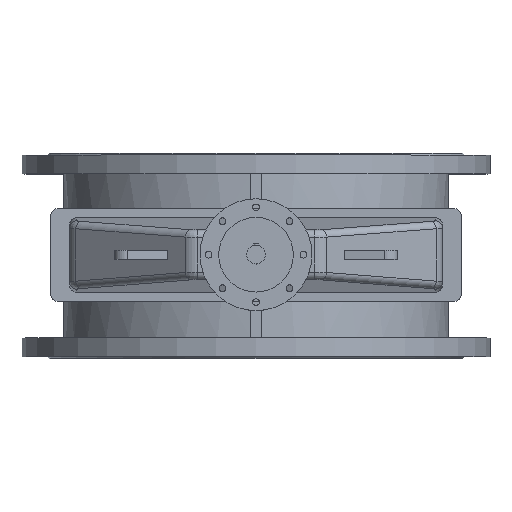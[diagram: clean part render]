
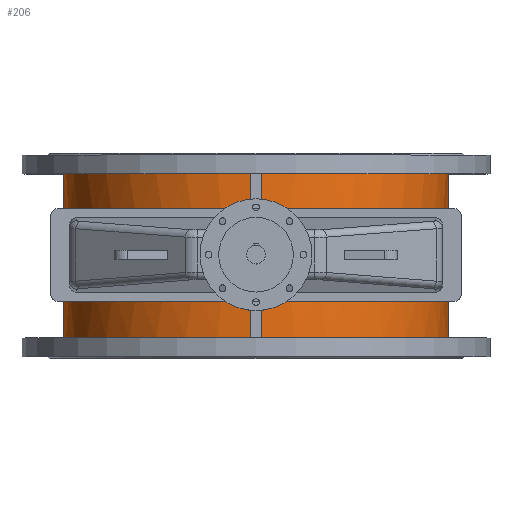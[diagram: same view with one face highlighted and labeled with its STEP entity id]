
A CAD part, top view. The second image highlights one B-rep face of the part: STEP entity #206.
In plain terms, the highlighted cylindrical face has radius 516 mm (diameter 1032 mm), a partial arc.
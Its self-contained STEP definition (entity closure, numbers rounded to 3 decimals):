
#206=ADVANCED_FACE('',(#2637,#2639),#2641,.T.);
#2637=FACE_BOUND('',#2638,.T.);
#2638=EDGE_LOOP('',(#7153,#7154,#7155,#7156,#7157,#7158,#7159,#7160,#7161,#7162,
#7163,#7164));
#2639=FACE_BOUND('',#2640,.T.);
#2640=EDGE_LOOP('',(#7165,#7166,#7167,#7168,#7169,#7170));
#2641=CYLINDRICAL_SURFACE('',#2642,516.);
#2642=AXIS2_PLACEMENT_3D('',#2643,#2644,#2645);
#2643=CARTESIAN_POINT('',(0.,-220.,0.));
#2644=DIRECTION('',(0.,1.,0.));
#2645=DIRECTION('',(0.,0.,1.));
#7153=ORIENTED_EDGE('',*,*,#8330,.F.);
#7154=ORIENTED_EDGE('',*,*,#8325,.F.);
#7155=ORIENTED_EDGE('',*,*,#8331,.F.);
#7156=ORIENTED_EDGE('',*,*,#8332,.F.);
#7157=ORIENTED_EDGE('',*,*,#8333,.F.);
#7158=ORIENTED_EDGE('',*,*,#8334,.F.);
#7159=ORIENTED_EDGE('',*,*,#8335,.F.);
#7160=ORIENTED_EDGE('',*,*,#8336,.F.);
#7161=ORIENTED_EDGE('',*,*,#8269,.F.);
#7162=ORIENTED_EDGE('',*,*,#8329,.F.);
#7163=ORIENTED_EDGE('',*,*,#8337,.F.);
#7164=ORIENTED_EDGE('',*,*,#8338,.T.);
#7165=ORIENTED_EDGE('',*,*,#8339,.T.);
#7166=ORIENTED_EDGE('',*,*,#8340,.F.);
#7167=ORIENTED_EDGE('',*,*,#8341,.F.);
#7168=ORIENTED_EDGE('',*,*,#8342,.F.);
#7169=ORIENTED_EDGE('',*,*,#8343,.F.);
#7170=ORIENTED_EDGE('',*,*,#8344,.F.);
#8269=EDGE_CURVE('',#8874,#8876,#8877,.T.);
#8325=EDGE_CURVE('',#8970,#8972,#8973,.T.);
#8329=EDGE_CURVE('',#8978,#8874,#8980,.T.);
#8330=EDGE_CURVE('',#8972,#8981,#8982,.F.);
#8331=EDGE_CURVE('',#8983,#8970,#8984,.F.);
#8332=EDGE_CURVE('',#8985,#8983,#8986,.F.);
#8333=EDGE_CURVE('',#8987,#8985,#8988,.F.);
#8334=EDGE_CURVE('',#8989,#8987,#8990,.T.);
#8335=EDGE_CURVE('',#8991,#8989,#8992,.T.);
#8336=EDGE_CURVE('',#8876,#8991,#8993,.F.);
#8337=EDGE_CURVE('',#8994,#8978,#8995,.T.);
#8338=EDGE_CURVE('',#8994,#8981,#8996,.T.);
#8339=EDGE_CURVE('',#8997,#8998,#8999,.T.);
#8340=EDGE_CURVE('',#9000,#8998,#9001,.F.);
#8341=EDGE_CURVE('',#9002,#9000,#9003,.F.);
#8342=EDGE_CURVE('',#9004,#9002,#9005,.T.);
#8343=EDGE_CURVE('',#9006,#9004,#9007,.T.);
#8344=EDGE_CURVE('',#8997,#9006,#9008,.T.);
#8874=VERTEX_POINT('',#9910);
#8876=VERTEX_POINT('',#9914);
#8877=LINE('',#9915,#9916);
#8970=VERTEX_POINT('',#10136);
#8972=VERTEX_POINT('',#10140);
#8973=(BOUNDED_CURVE()B_SPLINE_CURVE(3,
(#10141,#10142,#10143,#10144),
.UNSPECIFIED.,.F.,.F.)B_SPLINE_CURVE_WITH_KNOTS((4,4),
(0.,1.),
.UNSPECIFIED.)CURVE()GEOMETRIC_REPRESENTATION_ITEM()RATIONAL_B_SPLINE_CURVE((1.,
0.865,0.865,1.))REPRESENTATION_ITEM(''));
#8978=VERTEX_POINT('',#10153);
#8980=(BOUNDED_CURVE()B_SPLINE_CURVE(3,
(#10157,#10158,#10159,#10160),
.UNSPECIFIED.,.F.,.F.)B_SPLINE_CURVE_WITH_KNOTS((4,4),
(0.,1.),
.UNSPECIFIED.)CURVE()GEOMETRIC_REPRESENTATION_ITEM()RATIONAL_B_SPLINE_CURVE((1.,
0.865,0.865,1.))REPRESENTATION_ITEM(''));
#8981=VERTEX_POINT('',#10161);
#8982=LINE('',#10162,#10163);
#8983=VERTEX_POINT('',#10165);
#8984=LINE('',#10166,#10167);
#8985=VERTEX_POINT('',#10169);
#8986=(BOUNDED_CURVE()B_SPLINE_CURVE(3,
(#10170,#10171,#10172,#10173),
.UNSPECIFIED.,.F.,.F.)B_SPLINE_CURVE_WITH_KNOTS((4,4),
(0.,1.),
.UNSPECIFIED.)CURVE()GEOMETRIC_REPRESENTATION_ITEM()RATIONAL_B_SPLINE_CURVE((1.,
0.865,0.865,1.))REPRESENTATION_ITEM(''));
#8987=VERTEX_POINT('',#10174);
#8988=LINE('',#10175,#10176);
#8989=VERTEX_POINT('',#10178);
#8990=CIRCLE('',#10179,516.);
#8991=VERTEX_POINT('',#10183);
#8992=LINE('',#10184,#10185);
#8993=(BOUNDED_CURVE()B_SPLINE_CURVE(3,
(#10187,#10188,#10189,#10190),
.UNSPECIFIED.,.F.,.F.)B_SPLINE_CURVE_WITH_KNOTS((4,4),
(0.,1.),
.UNSPECIFIED.)CURVE()GEOMETRIC_REPRESENTATION_ITEM()RATIONAL_B_SPLINE_CURVE((1.,
0.865,0.865,1.))REPRESENTATION_ITEM(''));
#8994=VERTEX_POINT('',#10191);
#8995=LINE('',#10192,#10193);
#8996=CIRCLE('',#10195,516.);
#8997=VERTEX_POINT('',#10199);
#8998=VERTEX_POINT('',#10200);
#8999=LINE('',#10201,#10202);
#9000=VERTEX_POINT('',#10204);
#9001=(BOUNDED_CURVE()B_SPLINE_CURVE(3,
(#10205,#10206,#10207,#10208),
.UNSPECIFIED.,.F.,.F.)B_SPLINE_CURVE_WITH_KNOTS((4,4),
(0.,1.),
.UNSPECIFIED.)CURVE()GEOMETRIC_REPRESENTATION_ITEM()RATIONAL_B_SPLINE_CURVE((1.,
0.86,0.86,1.))REPRESENTATION_ITEM(''));
#9002=VERTEX_POINT('',#10209);
#9003=(BOUNDED_CURVE()B_SPLINE_CURVE(3,
(#10210,#10211,#10212,#10213),
.UNSPECIFIED.,.F.,.F.)B_SPLINE_CURVE_WITH_KNOTS((4,4),
(0.,1.),
.UNSPECIFIED.)CURVE()GEOMETRIC_REPRESENTATION_ITEM()RATIONAL_B_SPLINE_CURVE((1.,
0.86,0.86,1.))REPRESENTATION_ITEM(''));
#9004=VERTEX_POINT('',#10214);
#9005=LINE('',#10215,#10216);
#9006=VERTEX_POINT('',#10218);
#9007=(BOUNDED_CURVE()B_SPLINE_CURVE(3,
(#10219,#10220,#10221,#10222),
.UNSPECIFIED.,.F.,.F.)B_SPLINE_CURVE_WITH_KNOTS((4,4),
(0.,1.),
.UNSPECIFIED.)CURVE()GEOMETRIC_REPRESENTATION_ITEM()RATIONAL_B_SPLINE_CURVE((1.,
0.86,0.86,1.))REPRESENTATION_ITEM(''));
#9008=(BOUNDED_CURVE()B_SPLINE_CURVE(3,
(#10223,#10224,#10225,#10226),
.UNSPECIFIED.,.F.,.F.)B_SPLINE_CURVE_WITH_KNOTS((4,4),
(0.,1.),
.UNSPECIFIED.)CURVE()GEOMETRIC_REPRESENTATION_ITEM()RATIONAL_B_SPLINE_CURVE((1.,
0.86,0.86,1.))REPRESENTATION_ITEM(''));
#9910=CARTESIAN_POINT('',(500.,-83.31,127.499));
#9914=CARTESIAN_POINT('',(500.,83.31,127.499));
#9915=CARTESIAN_POINT('',(500.,-83.31,127.499));
#9916=VECTOR('',#9917,1.);
#9917=DIRECTION('',(0.,1.,0.));
#10136=CARTESIAN_POINT('',(-500.,-83.31,127.499));
#10140=CARTESIAN_POINT('',(-14.,-88.324,515.81));
#10141=CARTESIAN_POINT('',(-500.,-83.31,127.499));
#10142=CARTESIAN_POINT('',(-440.785,-86.308,359.716));
#10143=CARTESIAN_POINT('',(-253.56,-88.24,509.308));
#10144=CARTESIAN_POINT('',(-14.,-88.324,515.81));
#10153=CARTESIAN_POINT('',(14.,-88.324,515.81));
#10157=CARTESIAN_POINT('',(14.,-88.324,515.81));
#10158=CARTESIAN_POINT('',(253.56,-88.24,509.308));
#10159=CARTESIAN_POINT('',(440.785,-86.308,359.716));
#10160=CARTESIAN_POINT('',(500.,-83.31,127.499));
#10161=CARTESIAN_POINT('',(-14.,-220.,515.81));
#10162=CARTESIAN_POINT('',(-14.,-220.,515.81));
#10163=VECTOR('',#10164,1.);
#10164=DIRECTION('',(0.,1.,0.));
#10165=CARTESIAN_POINT('',(-500.,83.31,127.499));
#10166=CARTESIAN_POINT('',(-500.,-83.31,127.499));
#10167=VECTOR('',#10168,1.);
#10168=DIRECTION('',(0.,1.,0.));
#10169=CARTESIAN_POINT('',(-14.,88.324,515.81));
#10170=CARTESIAN_POINT('',(-500.,83.31,127.499));
#10171=CARTESIAN_POINT('',(-440.785,86.308,359.716));
#10172=CARTESIAN_POINT('',(-253.56,88.24,509.308));
#10173=CARTESIAN_POINT('',(-14.,88.324,515.81));
#10174=CARTESIAN_POINT('',(-14.,220.,515.81));
#10175=CARTESIAN_POINT('',(-14.,88.324,515.81));
#10176=VECTOR('',#10177,1.);
#10177=DIRECTION('',(0.,1.,0.));
#10178=CARTESIAN_POINT('',(14.,220.,515.81));
#10179=AXIS2_PLACEMENT_3D('',#10180,#10181,#10182);
#10180=CARTESIAN_POINT('',(0.,220.,0.));
#10181=DIRECTION('',(0.,1.,0.));
#10182=DIRECTION('',(0.027,0.,1.));
#10183=CARTESIAN_POINT('',(14.,88.324,515.81));
#10184=CARTESIAN_POINT('',(14.,88.324,515.81));
#10185=VECTOR('',#10186,1.);
#10186=DIRECTION('',(0.,1.,0.));
#10187=CARTESIAN_POINT('',(14.,88.324,515.81));
#10188=CARTESIAN_POINT('',(253.56,88.24,509.308));
#10189=CARTESIAN_POINT('',(440.785,86.308,359.716));
#10190=CARTESIAN_POINT('',(500.,83.31,127.499));
#10191=CARTESIAN_POINT('',(14.,-220.,515.81));
#10192=CARTESIAN_POINT('',(14.,-220.,515.81));
#10193=VECTOR('',#10194,1.);
#10194=DIRECTION('',(0.,1.,0.));
#10195=AXIS2_PLACEMENT_3D('',#10196,#10197,#10198);
#10196=CARTESIAN_POINT('',(0.,-220.,0.));
#10197=DIRECTION('',(0.,1.,0.));
#10198=DIRECTION('',(0.027,0.,1.));
#10199=CARTESIAN_POINT('',(500.,-80.017,-127.499));
#10200=CARTESIAN_POINT('',(500.,80.017,-127.499));
#10201=CARTESIAN_POINT('',(500.,-80.017,-127.499));
#10202=VECTOR('',#10203,1.);
#10203=DIRECTION('',(0.,1.,0.));
#10204=CARTESIAN_POINT('',(0.,75.,-516.));
#10205=CARTESIAN_POINT('',(500.,80.017,-127.499));
#10206=CARTESIAN_POINT('',(439.342,76.945,-365.377));
#10207=CARTESIAN_POINT('',(245.49,75.,-516.));
#10208=CARTESIAN_POINT('',(0.,75.,-516.));
#10209=CARTESIAN_POINT('',(-500.,80.017,-127.499));
#10210=CARTESIAN_POINT('',(0.,75.,-516.));
#10211=CARTESIAN_POINT('',(-245.49,75.,-516.));
#10212=CARTESIAN_POINT('',(-439.342,76.945,-365.377));
#10213=CARTESIAN_POINT('',(-500.,80.017,-127.499));
#10214=CARTESIAN_POINT('',(-500.,-80.017,-127.499));
#10215=CARTESIAN_POINT('',(-500.,-80.017,-127.499));
#10216=VECTOR('',#10217,1.);
#10217=DIRECTION('',(0.,1.,0.));
#10218=CARTESIAN_POINT('',(0.,-75.,-516.));
#10219=CARTESIAN_POINT('',(0.,-75.,-516.));
#10220=CARTESIAN_POINT('',(-245.49,-75.,-516.));
#10221=CARTESIAN_POINT('',(-439.342,-76.945,-365.377));
#10222=CARTESIAN_POINT('',(-500.,-80.017,-127.499));
#10223=CARTESIAN_POINT('',(500.,-80.017,-127.499));
#10224=CARTESIAN_POINT('',(439.342,-76.945,-365.377));
#10225=CARTESIAN_POINT('',(245.49,-75.,-516.));
#10226=CARTESIAN_POINT('',(0.,-75.,-516.));
